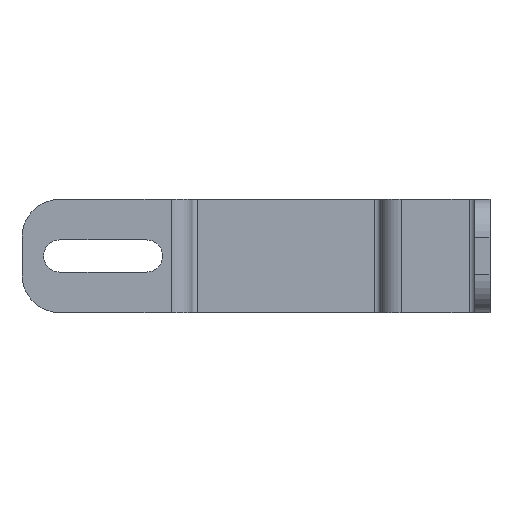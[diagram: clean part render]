
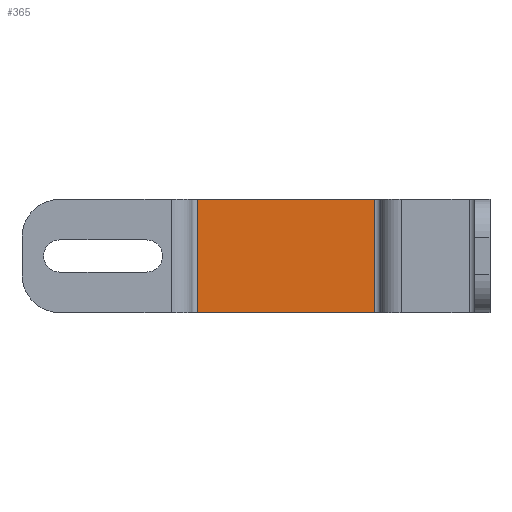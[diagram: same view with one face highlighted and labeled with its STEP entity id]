
A CAD part, left-side view. The second image highlights one B-rep face of the part: STEP entity #365.
In plain terms, the highlighted planar face has unit normal (-1, 0, 0).
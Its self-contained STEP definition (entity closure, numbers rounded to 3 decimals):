
#36 = VERTEX_POINT ( 'NONE', #559 ) ;
#150 = VERTEX_POINT ( 'NONE', #831 ) ;
#188 = EDGE_CURVE ( 'NONE', #198, #36, #986, .T. ) ;
#198 = VERTEX_POINT ( 'NONE', #1026 ) ;
#200 = VERTEX_POINT ( 'NONE', #1013 ) ;
#257 = EDGE_CURVE ( 'NONE', #200, #150, #1151, .T. ) ;
#327 = ORIENTED_EDGE ( 'NONE', *, *, #257, .T. ) ;
#340 = ORIENTED_EDGE ( 'NONE', *, *, #366, .F. ) ;
#342 = EDGE_LOOP ( 'NONE', ( #401, #340, #327, #367 ) ) ;
#365 = ADVANCED_FACE ( 'NONE', ( #1656 ), #1544, .T. ) ;
#366 = EDGE_CURVE ( 'NONE', #200, #198, #1538, .T. ) ;
#367 = ORIENTED_EDGE ( 'NONE', *, *, #404, .T. ) ;
#401 = ORIENTED_EDGE ( 'NONE', *, *, #188, .F. ) ;
#404 = EDGE_CURVE ( 'NONE', #150, #36, #1502, .T. ) ;
#559 = CARTESIAN_POINT ( 'NONE',  ( 180., 77.5, -15. ) ) ;
#831 = CARTESIAN_POINT ( 'NONE',  ( 180., 77.5, 15. ) ) ;
#983 = DIRECTION ( 'NONE',  ( 0., 1., 0. ) ) ;
#984 = VECTOR ( 'NONE', #983, 1000. ) ;
#985 = CARTESIAN_POINT ( 'NONE',  ( 180., 25., -15. ) ) ;
#986 = LINE ( 'NONE', #985, #984 ) ;
#1013 = CARTESIAN_POINT ( 'NONE',  ( 180., 30.5, 15. ) ) ;
#1026 = CARTESIAN_POINT ( 'NONE',  ( 180., 30.5, -15. ) ) ;
#1054 = DIRECTION ( 'NONE',  ( 0., 1., 0. ) ) ;
#1055 = VECTOR ( 'NONE', #1054, 1000. ) ;
#1150 = CARTESIAN_POINT ( 'NONE',  ( 180., 25., 15. ) ) ;
#1151 = LINE ( 'NONE', #1150, #1055 ) ;
#1493 = DIRECTION ( 'NONE',  ( 0., 0., -1. ) ) ;
#1494 = VECTOR ( 'NONE', #1493, 1000. ) ;
#1502 = LINE ( 'NONE', #1517, #1494 ) ;
#1517 = CARTESIAN_POINT ( 'NONE',  ( 180., 77.5, 15. ) ) ;
#1536 = DIRECTION ( 'NONE',  ( 0., 0., -1. ) ) ;
#1537 = VECTOR ( 'NONE', #1536, 1000. ) ;
#1538 = LINE ( 'NONE', #1545, #1537 ) ;
#1540 = DIRECTION ( 'NONE',  ( 0., 0., 1. ) ) ;
#1541 = DIRECTION ( 'NONE',  ( -1., 0., 0. ) ) ;
#1542 = CARTESIAN_POINT ( 'NONE',  ( 180., 25., 15. ) ) ;
#1543 = AXIS2_PLACEMENT_3D ( 'NONE', #1542, #1541, #1540 ) ;
#1544 = PLANE ( 'NONE',  #1543 ) ;
#1545 = CARTESIAN_POINT ( 'NONE',  ( 180., 30.5, 15. ) ) ;
#1656 = FACE_OUTER_BOUND ( 'NONE', #342, .T. ) ;
